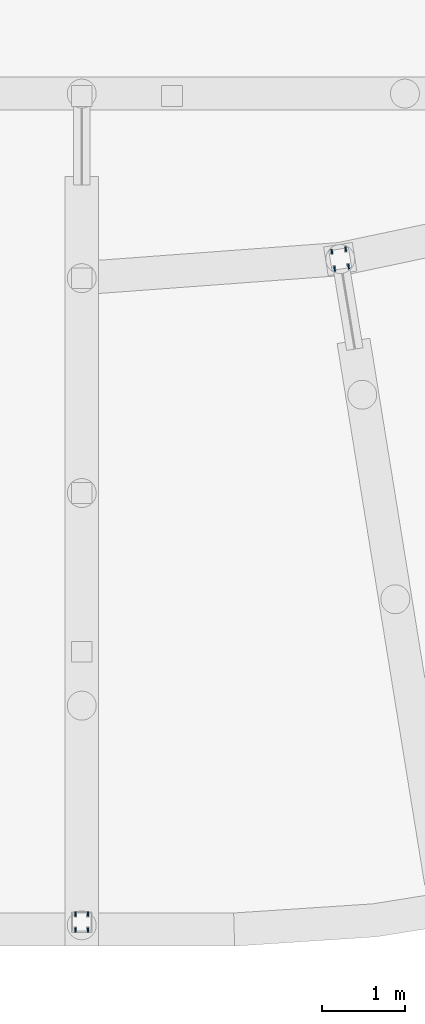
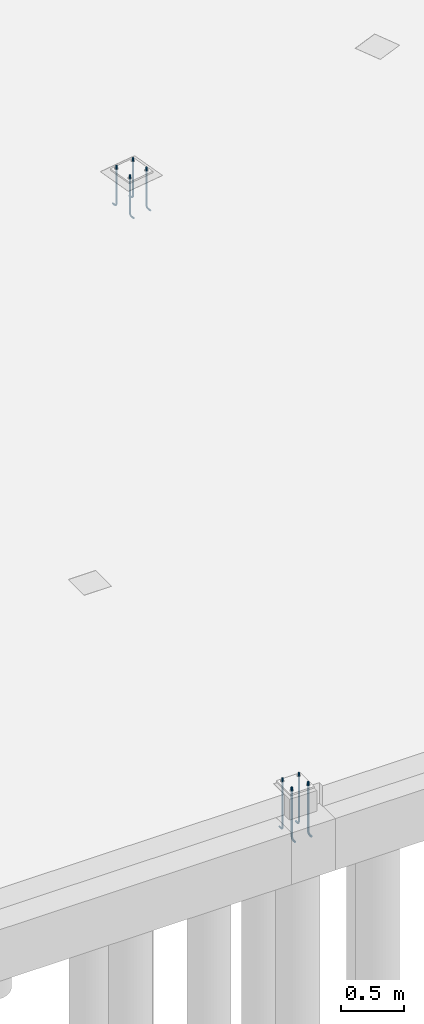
# One storey, part 19 of 22: 8 beams.
"""IFC2X3 building model written with IfcOpenShell, lengths in millimetres."""

from ifc_helpers import new_model, si_unit, frame, origin_with_axes, place, context, subcontext, project, spatial, faceted_brep, material, type_object, element, save


model = new_model("IFC2X3")

# Units and contexts
model_context = context("Model", 3, precision=1e-05, world=origin_with_axes())
body_context = subcontext(model_context, "Body", "Model", "MODEL_VIEW")
ifc_project = project(units=[si_unit("LENGTHUNIT", "METRE", prefix="MILLI"), si_unit("AREAUNIT", "SQUARE_METRE"), si_unit("VOLUMEUNIT", "CUBIC_METRE"), si_unit("MASSUNIT", "GRAM", prefix="KILO"), si_unit("TIMEUNIT", "SECOND"), si_unit("PLANEANGLEUNIT", "RADIAN"), si_unit("SOLIDANGLEUNIT", "STERADIAN"), si_unit("THERMODYNAMICTEMPERATUREUNIT", "DEGREE_CELSIUS"), si_unit("LUMINOUSINTENSITYUNIT", "LUMEN")], contexts=[model_context])

# Site, building, storey
site_placement = place(None, origin_with_axes())
site = spatial("IfcSite", under=ifc_project, at=site_placement, Name="Undefined", CompositionType="ELEMENT")
building_placement = place(site_placement, origin_with_axes())
building = spatial("IfcBuilding", under=site, at=building_placement, Name="Undefined", CompositionType="ELEMENT")
storey_placement = place(building_placement, origin_with_axes())
storey = spatial("IfcBuildingStorey", under=building, at=storey_placement, Name="Undefined", CompositionType="ELEMENT", Elevation=0.0)

# Beams
ifc_material = material(Name="STEEL/S235JR")
beam_type = type_object("IfcBeamType", Name="ANKER_M16", PredefinedType="NOTDEFINED")
beam_1_placement = place(storey_placement, frame((49287.1203901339, 199.621214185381, 0.0), z_axis=(0.0, 1.0, 0.0), x_axis=(0.0, 0.0, -1.0)))
element("IfcBeam", 1, at=beam_1_placement, inside=storey, type_object=beam_type, material=ifc_material, Name="ANKER", context=body_context, shape_type="Brep", body=[
    faceted_brep([(0.0, -8.00000000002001, 7.27595761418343e-12), (0.0, -5.65685424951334, -5.65685424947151), (477.0, -5.65685424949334, -5.65685424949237), (477.0, -8.0, 0.0), (0.0, -9.09494701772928e-12, -7.99999999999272), (477.0, 0.0, -8.0), (0.0, 5.65685424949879, -5.65685424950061), (477.0, 5.65685424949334, -5.65685424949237), (0.0, 8.00000000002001, -3.63797880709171e-11), (477.0, 8.0, 0.0), (0.0, 5.65685424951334, 5.65685424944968), (477.0, 5.65685424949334, 5.65685424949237), (0.0, 5.45696821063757e-12, 7.99999999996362), (477.0, 0.0, 8.0), (0.0, -5.65685424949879, 5.65685424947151), (477.0, -5.65685424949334, 5.65685424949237), (488.863186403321, 0.0, 5.64026550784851), (487.966503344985, 5.65685424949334, 3.47548110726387), (485.801718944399, 8.0, -1.75077075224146), (483.636934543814, 5.65685424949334, -6.9770226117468), (482.740251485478, 0.0, -9.14180701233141), (483.636934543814, -5.65685424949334, -6.9770226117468), (485.801718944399, -8.0, -1.75077075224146), (487.966503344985, -5.65685424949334, 3.47548110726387), (497.263455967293, -5.65685424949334, -2.73654403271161), (498.920310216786, 0.0, -1.07968978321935), (493.263455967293, -8.0, -6.73654403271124), (489.263455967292, -5.65685424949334, -10.7365440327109), (487.606601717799, 0.0, -12.3933982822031), (489.263455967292, 5.65685424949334, -10.7365440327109), (493.263455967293, 8.0, -6.73654403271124), (497.263455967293, 5.65685424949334, -2.73654403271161), (503.475481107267, -5.65685424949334, -12.0334966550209), (505.640265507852, 0.0, -11.1368135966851), (498.249229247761, -8.0, -14.1982810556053), (493.022977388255, -5.65685424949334, -16.3630654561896), (490.85819298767, 0.0, -17.2597485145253), (493.022977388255, 5.65685424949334, -16.3630654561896), (498.249229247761, 8.0, -14.1982810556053), (503.475481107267, 5.65685424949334, -12.0334966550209), (505.656854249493, -5.65685424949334, -22.9999999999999), (508.000000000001, 0.0, -22.9999999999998), (500.0, -8.0, -23.0), (494.343145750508, -5.65685424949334, -23.0000000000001), (492.000000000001, 0.0, -23.0000000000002), (494.343145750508, 5.65685424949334, -23.0000000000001), (500.000000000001, 8.0, -23.0), (505.656854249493, 5.65685424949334, -22.9999999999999), (494.343145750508, -5.65685424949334, -50.0), (500.0, -8.0, -50.0), (492.0, 0.0, -50.0), (494.343145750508, 5.65685424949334, -50.0), (500.0, 8.0, -50.0), (505.656854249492, 5.65685424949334, -50.0), (508.0, 0.0, -50.0), (505.656854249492, -5.65685424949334, -50.0)], [[[0, 1, 2, 3]], [[1, 4, 5, 2]], [[4, 6, 7, 5]], [[6, 8, 9, 7]], [[8, 10, 11, 9]], [[10, 12, 13, 11]], [[12, 14, 15, 13]], [[14, 0, 3, 15]], [[14, 12, 10, 8, 6, 4, 1, 0]], [[11, 13, 16, 17]], [[9, 11, 17, 18]], [[7, 9, 18, 19]], [[5, 7, 19, 20]], [[2, 5, 20, 21]], [[3, 2, 21, 22]], [[15, 3, 22, 23]], [[13, 15, 23, 16]], [[23, 24, 25, 16]], [[22, 26, 24, 23]], [[21, 27, 26, 22]], [[20, 28, 27, 21]], [[19, 29, 28, 20]], [[18, 30, 29, 19]], [[17, 31, 30, 18]], [[16, 25, 31, 17]], [[24, 32, 33, 25]], [[26, 34, 32, 24]], [[27, 35, 34, 26]], [[28, 36, 35, 27]], [[29, 37, 36, 28]], [[30, 38, 37, 29]], [[31, 39, 38, 30]], [[25, 33, 39, 31]], [[32, 40, 41, 33]], [[34, 42, 40, 32]], [[35, 43, 42, 34]], [[36, 44, 43, 35]], [[37, 45, 44, 36]], [[38, 46, 45, 37]], [[39, 47, 46, 38]], [[33, 41, 47, 39]], [[42, 43, 48, 49]], [[43, 44, 50, 48]], [[44, 45, 51, 50]], [[45, 46, 52, 51]], [[46, 47, 53, 52]], [[47, 41, 54, 53]], [[41, 40, 55, 54]], [[40, 42, 49, 55]], [[50, 51, 52, 53, 54, 55, 49, 48]]]),
])
beam_2_placement = place(storey_placement, frame((49437.1203901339, 199.621214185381, 0.0), z_axis=(0.0, 1.0, 0.0), x_axis=(0.0, 0.0, -1.0)))
element("IfcBeam", 2, at=beam_2_placement, inside=storey, type_object=beam_type, material=ifc_material, Name="ANKER", context=body_context, shape_type="Brep", body=[
    faceted_brep([(0.0, -8.00000000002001, 7.27595761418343e-12), (0.0, -5.65685424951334, -5.65685424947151), (477.0, -5.65685424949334, -5.65685424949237), (477.0, -8.0, 0.0), (0.0, -9.09494701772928e-12, -7.99999999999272), (477.0, 0.0, -8.0), (0.0, 5.65685424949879, -5.65685424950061), (477.0, 5.65685424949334, -5.65685424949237), (0.0, 8.00000000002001, -3.63797880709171e-11), (477.0, 8.0, 0.0), (0.0, 5.65685424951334, 5.65685424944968), (477.0, 5.65685424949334, 5.65685424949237), (0.0, 5.45696821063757e-12, 7.99999999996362), (477.0, 0.0, 8.0), (0.0, -5.65685424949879, 5.65685424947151), (477.0, -5.65685424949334, 5.65685424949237), (488.863186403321, 0.0, 5.64026550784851), (487.966503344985, 5.65685424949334, 3.47548110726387), (485.801718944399, 8.0, -1.75077075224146), (483.636934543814, 5.65685424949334, -6.9770226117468), (482.740251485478, 0.0, -9.14180701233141), (483.636934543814, -5.65685424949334, -6.9770226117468), (485.801718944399, -8.0, -1.75077075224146), (487.966503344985, -5.65685424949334, 3.47548110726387), (497.263455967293, -5.65685424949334, -2.73654403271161), (498.920310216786, 0.0, -1.07968978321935), (493.263455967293, -8.0, -6.73654403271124), (489.263455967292, -5.65685424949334, -10.7365440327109), (487.606601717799, 0.0, -12.3933982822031), (489.263455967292, 5.65685424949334, -10.7365440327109), (493.263455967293, 8.0, -6.73654403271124), (497.263455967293, 5.65685424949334, -2.73654403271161), (503.475481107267, -5.65685424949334, -12.0334966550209), (505.640265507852, 0.0, -11.1368135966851), (498.249229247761, -8.0, -14.1982810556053), (493.022977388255, -5.65685424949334, -16.3630654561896), (490.85819298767, 0.0, -17.2597485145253), (493.022977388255, 5.65685424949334, -16.3630654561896), (498.249229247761, 8.0, -14.1982810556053), (503.475481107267, 5.65685424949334, -12.0334966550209), (505.656854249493, -5.65685424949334, -22.9999999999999), (508.000000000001, 0.0, -22.9999999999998), (500.0, -8.0, -23.0), (494.343145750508, -5.65685424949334, -23.0000000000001), (492.000000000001, 0.0, -23.0000000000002), (494.343145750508, 5.65685424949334, -23.0000000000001), (500.000000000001, 8.0, -23.0), (505.656854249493, 5.65685424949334, -22.9999999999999), (494.343145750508, -5.65685424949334, -50.0), (500.0, -8.0, -50.0), (492.0, 0.0, -50.0), (494.343145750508, 5.65685424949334, -50.0), (500.0, 8.0, -50.0), (505.656854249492, 5.65685424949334, -50.0), (508.0, 0.0, -50.0), (505.656854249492, -5.65685424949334, -50.0)], [[[0, 1, 2, 3]], [[1, 4, 5, 2]], [[4, 6, 7, 5]], [[6, 8, 9, 7]], [[8, 10, 11, 9]], [[10, 12, 13, 11]], [[12, 14, 15, 13]], [[14, 0, 3, 15]], [[14, 12, 10, 8, 6, 4, 1, 0]], [[11, 13, 16, 17]], [[9, 11, 17, 18]], [[7, 9, 18, 19]], [[5, 7, 19, 20]], [[2, 5, 20, 21]], [[3, 2, 21, 22]], [[15, 3, 22, 23]], [[13, 15, 23, 16]], [[23, 24, 25, 16]], [[22, 26, 24, 23]], [[21, 27, 26, 22]], [[20, 28, 27, 21]], [[19, 29, 28, 20]], [[18, 30, 29, 19]], [[17, 31, 30, 18]], [[16, 25, 31, 17]], [[24, 32, 33, 25]], [[26, 34, 32, 24]], [[27, 35, 34, 26]], [[28, 36, 35, 27]], [[29, 37, 36, 28]], [[30, 38, 37, 29]], [[31, 39, 38, 30]], [[25, 33, 39, 31]], [[32, 40, 41, 33]], [[34, 42, 40, 32]], [[35, 43, 42, 34]], [[36, 44, 43, 35]], [[37, 45, 44, 36]], [[38, 46, 45, 37]], [[39, 47, 46, 38]], [[33, 41, 47, 39]], [[42, 43, 48, 49]], [[43, 44, 50, 48]], [[44, 45, 51, 50]], [[45, 46, 52, 51]], [[46, 47, 53, 52]], [[47, 41, 54, 53]], [[41, 40, 55, 54]], [[40, 42, 49, 55]], [[50, 51, 52, 53, 54, 55, 49, 48]]]),
])
beam_3_placement = place(storey_placement, frame((49287.1203901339, 349.621214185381, 0.0), z_axis=(0.0, 1.0, 0.0), x_axis=(0.0, 0.0, -1.0)))
element("IfcBeam", 3, at=beam_3_placement, inside=storey, type_object=beam_type, material=ifc_material, Name="ANKER", context=body_context, shape_type="Brep", body=[
    faceted_brep([(0.0, -8.00000000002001, 7.27595761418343e-12), (0.0, -5.65685424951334, -5.65685424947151), (477.0, -5.65685424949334, -5.65685424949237), (477.0, -8.0, 0.0), (0.0, -9.09494701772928e-12, -7.99999999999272), (477.0, 0.0, -8.0), (0.0, 5.65685424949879, -5.65685424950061), (477.0, 5.65685424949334, -5.65685424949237), (0.0, 8.00000000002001, -3.63797880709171e-11), (477.0, 8.0, 0.0), (0.0, 5.65685424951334, 5.65685424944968), (477.0, 5.65685424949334, 5.65685424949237), (0.0, 5.45696821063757e-12, 7.99999999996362), (477.0, 0.0, 8.0), (0.0, -5.65685424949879, 5.65685424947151), (477.0, -5.65685424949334, 5.65685424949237), (488.863186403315, 0.0, -5.64026550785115), (487.966503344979, -5.65685424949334, -3.47548110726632), (485.801718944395, -8.0, 1.75077075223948), (483.636934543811, -5.65685424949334, 6.97702261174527), (482.740251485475, 0.0, 9.14180701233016), (483.636934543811, 5.65685424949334, 6.97702261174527), (485.801718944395, 8.0, 1.75077075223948), (487.966503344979, 5.65685424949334, -3.47548110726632), (497.263455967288, 5.65685424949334, 2.73654403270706), (498.920310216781, 0.0, 1.07968978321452), (493.263455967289, 8.0, 6.73654403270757), (489.263455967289, 5.65685424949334, 10.7365440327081), (487.606601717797, 0.0, 12.3933982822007), (489.263455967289, -5.65685424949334, 10.7365440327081), (493.263455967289, -8.0, 6.73654403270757), (497.263455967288, -5.65685424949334, 2.73654403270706), (503.475481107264, 5.65685424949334, 12.033496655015), (505.640265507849, 0.0, 11.1368135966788), (498.249229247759, 8.0, 14.1982810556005), (493.022977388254, 5.65685424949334, 16.363065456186), (490.858192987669, 0.0, 17.2597485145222), (493.022977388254, -5.65685424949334, 16.363065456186), (498.249229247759, -8.0, 14.1982810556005), (503.475481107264, -5.65685424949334, 12.033496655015), (505.656854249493, 5.65685424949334, 22.9999999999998), (508.000000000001, 0.0, 22.9999999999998), (500.000000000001, 8.0, 23.0), (494.343145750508, 5.65685424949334, 23.0000000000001), (492.000000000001, 0.0, 23.0000000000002), (494.343145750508, -5.65685424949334, 23.0000000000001), (500.0, -8.0, 23.0), (505.656854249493, -5.65685424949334, 22.9999999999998), (505.656854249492, -5.65685424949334, 50.0), (500.0, -8.0, 50.0), (508.0, 0.0, 50.0), (505.656854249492, 5.65685424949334, 50.0), (500.0, 8.0, 50.0), (494.343145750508, 5.65685424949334, 50.0), (492.0, 0.0, 50.0), (494.343145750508, -5.65685424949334, 50.0)], [[[0, 1, 2, 3]], [[1, 4, 5, 2]], [[4, 6, 7, 5]], [[6, 8, 9, 7]], [[8, 10, 11, 9]], [[10, 12, 13, 11]], [[12, 14, 15, 13]], [[14, 0, 3, 15]], [[14, 12, 10, 8, 6, 4, 1, 0]], [[2, 5, 16, 17]], [[3, 2, 17, 18]], [[15, 3, 18, 19]], [[13, 15, 19, 20]], [[11, 13, 20, 21]], [[9, 11, 21, 22]], [[7, 9, 22, 23]], [[5, 7, 23, 16]], [[23, 24, 25, 16]], [[22, 26, 24, 23]], [[21, 27, 26, 22]], [[20, 28, 27, 21]], [[19, 29, 28, 20]], [[18, 30, 29, 19]], [[17, 31, 30, 18]], [[16, 25, 31, 17]], [[24, 32, 33, 25]], [[26, 34, 32, 24]], [[27, 35, 34, 26]], [[28, 36, 35, 27]], [[29, 37, 36, 28]], [[30, 38, 37, 29]], [[31, 39, 38, 30]], [[25, 33, 39, 31]], [[32, 40, 41, 33]], [[34, 42, 40, 32]], [[35, 43, 42, 34]], [[36, 44, 43, 35]], [[37, 45, 44, 36]], [[38, 46, 45, 37]], [[39, 47, 46, 38]], [[33, 41, 47, 39]], [[46, 47, 48, 49]], [[47, 41, 50, 48]], [[41, 40, 51, 50]], [[40, 42, 52, 51]], [[42, 43, 53, 52]], [[43, 44, 54, 53]], [[44, 45, 55, 54]], [[45, 46, 49, 55]], [[50, 51, 52, 53, 54, 55, 49, 48]]]),
])
beam_4_placement = place(storey_placement, frame((49437.1203901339, 349.621214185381, 0.0), z_axis=(0.0, -1.0, 0.0), x_axis=(0.0, 0.0, -1.0)))
element("IfcBeam", 4, at=beam_4_placement, inside=storey, type_object=beam_type, material=ifc_material, Name="ANKER", context=body_context, shape_type="Brep", body=[
    faceted_brep([(0.0, -8.00000000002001, 7.27595761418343e-12), (0.0, -5.65685424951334, -5.65685424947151), (477.0, -5.65685424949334, -5.65685424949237), (477.0, -8.0, 0.0), (0.0, -9.09494701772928e-12, -7.99999999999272), (477.0, 0.0, -8.0), (0.0, 5.65685424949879, -5.65685424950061), (477.0, 5.65685424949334, -5.65685424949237), (0.0, 8.00000000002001, -3.63797880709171e-11), (477.0, 8.0, 0.0), (0.0, 5.65685424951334, 5.65685424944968), (477.0, 5.65685424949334, 5.65685424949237), (0.0, 5.45696821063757e-12, 7.99999999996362), (477.0, 0.0, 8.0), (0.0, -5.65685424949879, 5.65685424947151), (477.0, -5.65685424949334, 5.65685424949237), (488.863186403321, 0.0, 5.64026550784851), (487.966503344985, 5.65685424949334, 3.47548110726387), (485.801718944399, 8.0, -1.75077075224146), (483.636934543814, 5.65685424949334, -6.9770226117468), (482.740251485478, 0.0, -9.14180701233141), (483.636934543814, -5.65685424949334, -6.9770226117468), (485.801718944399, -8.0, -1.75077075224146), (487.966503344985, -5.65685424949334, 3.47548110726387), (497.263455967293, -5.65685424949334, -2.73654403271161), (498.920310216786, 0.0, -1.07968978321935), (493.263455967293, -8.0, -6.73654403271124), (489.263455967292, -5.65685424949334, -10.7365440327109), (487.606601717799, 0.0, -12.3933982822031), (489.263455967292, 5.65685424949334, -10.7365440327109), (493.263455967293, 8.0, -6.73654403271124), (497.263455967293, 5.65685424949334, -2.73654403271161), (503.475481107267, -5.65685424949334, -12.0334966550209), (505.640265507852, 0.0, -11.1368135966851), (498.249229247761, -8.0, -14.1982810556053), (493.022977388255, -5.65685424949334, -16.3630654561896), (490.85819298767, 0.0, -17.2597485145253), (493.022977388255, 5.65685424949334, -16.3630654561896), (498.249229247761, 8.0, -14.1982810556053), (503.475481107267, 5.65685424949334, -12.0334966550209), (505.656854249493, -5.65685424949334, -22.9999999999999), (508.000000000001, 0.0, -22.9999999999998), (500.0, -8.0, -23.0), (494.343145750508, -5.65685424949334, -23.0000000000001), (492.000000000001, 0.0, -23.0000000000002), (494.343145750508, 5.65685424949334, -23.0000000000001), (500.000000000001, 8.0, -23.0), (505.656854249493, 5.65685424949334, -22.9999999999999), (494.343145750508, -5.65685424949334, -50.0), (500.0, -8.0, -50.0), (492.0, 0.0, -50.0), (494.343145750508, 5.65685424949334, -50.0), (500.0, 8.0, -50.0), (505.656854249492, 5.65685424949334, -50.0), (508.0, 0.0, -50.0), (505.656854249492, -5.65685424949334, -50.0)], [[[0, 1, 2, 3]], [[1, 4, 5, 2]], [[4, 6, 7, 5]], [[6, 8, 9, 7]], [[8, 10, 11, 9]], [[10, 12, 13, 11]], [[12, 14, 15, 13]], [[14, 0, 3, 15]], [[14, 12, 10, 8, 6, 4, 1, 0]], [[11, 13, 16, 17]], [[9, 11, 17, 18]], [[7, 9, 18, 19]], [[5, 7, 19, 20]], [[2, 5, 20, 21]], [[3, 2, 21, 22]], [[15, 3, 22, 23]], [[13, 15, 23, 16]], [[23, 24, 25, 16]], [[22, 26, 24, 23]], [[21, 27, 26, 22]], [[20, 28, 27, 21]], [[19, 29, 28, 20]], [[18, 30, 29, 19]], [[17, 31, 30, 18]], [[16, 25, 31, 17]], [[24, 32, 33, 25]], [[26, 34, 32, 24]], [[27, 35, 34, 26]], [[28, 36, 35, 27]], [[29, 37, 36, 28]], [[30, 38, 37, 29]], [[31, 39, 38, 30]], [[25, 33, 39, 31]], [[32, 40, 41, 33]], [[34, 42, 40, 32]], [[35, 43, 42, 34]], [[36, 44, 43, 35]], [[37, 45, 44, 36]], [[38, 46, 45, 37]], [[39, 47, 46, 38]], [[33, 41, 47, 39]], [[42, 43, 48, 49]], [[43, 44, 50, 48]], [[44, 45, 51, 50]], [[45, 46, 52, 51]], [[46, 47, 53, 52]], [[47, 41, 54, 53]], [[41, 40, 55, 54]], [[40, 42, 49, 55]], [[50, 51, 52, 53, 54, 55, 49, 48]]]),
])
beam_5_placement = place(storey_placement, frame((52410.4952565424, 8179.79062919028, 0.0), z_axis=(-0.158972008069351, 0.987283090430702, 0.0), x_axis=(0.0, 0.0, -1.0)))
element("IfcBeam", 5, at=beam_5_placement, inside=storey, type_object=beam_type, material=ifc_material, Name="ANKER", context=body_context, shape_type="Brep", body=[
    faceted_brep([(0.0, -8.00000000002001, 7.27595761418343e-12), (0.0, -5.65685424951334, -5.65685424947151), (369.0, -5.65685424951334, -5.65685424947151), (369.0, -8.00000000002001, 7.27595761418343e-12), (0.0, -9.09494701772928e-12, -7.99999999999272), (369.0, -9.09494701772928e-12, -7.99999999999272), (0.0, 5.65685424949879, -5.65685424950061), (369.0, 5.65685424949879, -5.65685424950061), (0.0, 8.00000000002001, -3.63797880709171e-11), (369.0, 8.00000000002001, -3.63797880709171e-11), (0.0, 5.65685424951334, 5.65685424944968), (369.0, 5.65685424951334, 5.65685424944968), (0.0, 5.45696821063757e-12, 7.99999999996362), (369.0, 5.45696821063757e-12, 7.99999999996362), (0.0, -5.65685424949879, 5.65685424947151), (369.0, -5.65685424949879, 5.65685424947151), (380.863186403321, 9.09494701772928e-12, 5.64026550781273), (379.966503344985, 5.65685424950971, 3.4754811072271), (377.8017189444, 8.00000000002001, -1.75077075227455), (375.636934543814, 5.65685424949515, -6.97702261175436), (374.740251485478, -9.09494701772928e-12, -9.14180701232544), (375.636934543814, -5.65685424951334, -6.97702261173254), (377.8017189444, -8.00000000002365, -1.75077075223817), (379.966503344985, -5.65685424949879, 3.4754811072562), (389.263455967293, -5.65685424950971, -2.73654403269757), (390.920310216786, -1.81898940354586e-12, -1.07968978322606), (385.263455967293, -8.00000000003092, -6.73654403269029), (381.263455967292, -5.65685424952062, -10.736544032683), (379.6066017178, -9.09494701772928e-12, -12.3933982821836), (381.263455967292, 5.65685424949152, -10.7365440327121), (385.263455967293, 8.00000000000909, -6.73654403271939), (389.263455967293, 5.65685424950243, -2.73654403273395), (395.475481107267, -5.65685424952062, -12.0334966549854), (397.640265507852, -1.2732925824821e-11, -11.1368135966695), (390.249229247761, -8.00000000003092, -14.1982810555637), (385.022977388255, -5.65685424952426, -16.3630654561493), (382.85819298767, -1.63709046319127e-11, -17.2597485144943), (385.022977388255, 5.65685424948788, -16.3630654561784), (390.249229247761, 8.00000000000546, -14.1982810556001), (395.475481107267, 5.65685424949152, -12.0334966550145), (397.656854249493, -5.65685424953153, -22.9999999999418), (400.000000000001, -2.36468622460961e-11, -22.9999999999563), (392.0, -8.00000000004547, -22.9999999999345), (386.343145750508, -5.65685424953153, -22.9999999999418), (384.000000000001, -2.36468622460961e-11, -22.9999999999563), (386.343145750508, 5.65685424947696, -22.9999999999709), (392.000000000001, 7.99999999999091, -22.9999999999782), (397.656854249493, 5.65685424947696, -22.9999999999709), (386.343145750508, -5.65685424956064, -49.9999999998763), (392.0, -8.00000000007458, -49.999999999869), (384.0, -5.63886715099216e-11, -49.9999999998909), (386.343145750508, 5.65685424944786, -49.9999999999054), (392.0, 7.9999999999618, -49.9999999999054), (397.656854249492, 5.65685424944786, -49.9999999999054), (400.0, -5.63886715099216e-11, -49.9999999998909), (397.656854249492, -5.65685424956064, -49.9999999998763)], [[[0, 1, 2, 3]], [[1, 4, 5, 2]], [[4, 6, 7, 5]], [[6, 8, 9, 7]], [[8, 10, 11, 9]], [[10, 12, 13, 11]], [[12, 14, 15, 13]], [[14, 0, 3, 15]], [[14, 12, 10, 8, 6, 4, 1, 0]], [[11, 13, 16, 17]], [[9, 11, 17, 18]], [[7, 9, 18, 19]], [[5, 7, 19, 20]], [[2, 5, 20, 21]], [[3, 2, 21, 22]], [[15, 3, 22, 23]], [[13, 15, 23, 16]], [[23, 24, 25, 16]], [[22, 26, 24, 23]], [[21, 27, 26, 22]], [[20, 28, 27, 21]], [[19, 29, 28, 20]], [[18, 30, 29, 19]], [[17, 31, 30, 18]], [[16, 25, 31, 17]], [[24, 32, 33, 25]], [[26, 34, 32, 24]], [[27, 35, 34, 26]], [[28, 36, 35, 27]], [[29, 37, 36, 28]], [[30, 38, 37, 29]], [[31, 39, 38, 30]], [[25, 33, 39, 31]], [[32, 40, 41, 33]], [[34, 42, 40, 32]], [[35, 43, 42, 34]], [[36, 44, 43, 35]], [[37, 45, 44, 36]], [[38, 46, 45, 37]], [[39, 47, 46, 38]], [[33, 41, 47, 39]], [[42, 43, 48, 49]], [[43, 44, 50, 48]], [[44, 45, 51, 50]], [[45, 46, 52, 51]], [[46, 47, 53, 52]], [[47, 41, 54, 53]], [[41, 40, 55, 54]], [[40, 42, 49, 55]], [[50, 51, 52, 53, 54, 55, 49, 48]]]),
])
beam_6_placement = place(storey_placement, frame((52578.3333819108, 8206.81587056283, 0.0), z_axis=(-0.158972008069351, 0.987283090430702, 0.0), x_axis=(0.0, 0.0, -1.0)))
element("IfcBeam", 6, at=beam_6_placement, inside=storey, type_object=beam_type, material=ifc_material, Name="ANKER", context=body_context, shape_type="Brep", body=[
    faceted_brep([(0.0, -8.00000000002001, 7.27595761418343e-12), (0.0, -5.65685424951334, -5.65685424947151), (369.0, -5.65685424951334, -5.65685424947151), (369.0, -8.00000000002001, 7.27595761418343e-12), (0.0, -9.09494701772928e-12, -7.99999999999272), (369.0, -9.09494701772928e-12, -7.99999999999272), (0.0, 5.65685424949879, -5.65685424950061), (369.0, 5.65685424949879, -5.65685424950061), (0.0, 8.00000000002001, -3.63797880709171e-11), (369.0, 8.00000000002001, -3.63797880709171e-11), (0.0, 5.65685424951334, 5.65685424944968), (369.0, 5.65685424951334, 5.65685424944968), (0.0, 5.45696821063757e-12, 7.99999999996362), (369.0, 5.45696821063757e-12, 7.99999999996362), (0.0, -5.65685424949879, 5.65685424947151), (369.0, -5.65685424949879, 5.65685424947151), (380.863186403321, 9.09494701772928e-12, 5.64026550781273), (379.966503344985, 5.65685424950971, 3.4754811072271), (377.8017189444, 8.00000000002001, -1.75077075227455), (375.636934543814, 5.65685424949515, -6.97702261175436), (374.740251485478, -9.09494701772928e-12, -9.14180701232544), (375.636934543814, -5.65685424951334, -6.97702261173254), (377.8017189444, -8.00000000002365, -1.75077075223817), (379.966503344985, -5.65685424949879, 3.4754811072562), (389.263455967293, -5.65685424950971, -2.73654403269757), (390.920310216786, -1.81898940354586e-12, -1.07968978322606), (385.263455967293, -8.00000000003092, -6.73654403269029), (381.263455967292, -5.65685424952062, -10.736544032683), (379.6066017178, -9.09494701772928e-12, -12.3933982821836), (381.263455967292, 5.65685424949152, -10.7365440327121), (385.263455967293, 8.00000000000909, -6.73654403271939), (389.263455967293, 5.65685424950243, -2.73654403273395), (395.475481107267, -5.65685424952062, -12.0334966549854), (397.640265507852, -1.2732925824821e-11, -11.1368135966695), (390.249229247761, -8.00000000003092, -14.1982810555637), (385.022977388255, -5.65685424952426, -16.3630654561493), (382.85819298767, -1.63709046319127e-11, -17.2597485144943), (385.022977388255, 5.65685424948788, -16.3630654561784), (390.249229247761, 8.00000000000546, -14.1982810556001), (395.475481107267, 5.65685424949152, -12.0334966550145), (397.656854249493, -5.65685424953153, -22.9999999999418), (400.000000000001, -2.36468622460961e-11, -22.9999999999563), (392.0, -8.00000000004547, -22.9999999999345), (386.343145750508, -5.65685424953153, -22.9999999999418), (384.000000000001, -2.36468622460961e-11, -22.9999999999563), (386.343145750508, 5.65685424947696, -22.9999999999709), (392.000000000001, 7.99999999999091, -22.9999999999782), (397.656854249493, 5.65685424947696, -22.9999999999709), (386.343145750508, -5.65685424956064, -49.9999999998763), (392.0, -8.00000000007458, -49.999999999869), (384.0, -5.63886715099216e-11, -49.9999999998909), (386.343145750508, 5.65685424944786, -49.9999999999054), (392.0, 7.9999999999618, -49.9999999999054), (397.656854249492, 5.65685424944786, -49.9999999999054), (400.0, -5.63886715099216e-11, -49.9999999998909), (397.656854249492, -5.65685424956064, -49.9999999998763)], [[[0, 1, 2, 3]], [[1, 4, 5, 2]], [[4, 6, 7, 5]], [[6, 8, 9, 7]], [[8, 10, 11, 9]], [[10, 12, 13, 11]], [[12, 14, 15, 13]], [[14, 0, 3, 15]], [[14, 12, 10, 8, 6, 4, 1, 0]], [[11, 13, 16, 17]], [[9, 11, 17, 18]], [[7, 9, 18, 19]], [[5, 7, 19, 20]], [[2, 5, 20, 21]], [[3, 2, 21, 22]], [[15, 3, 22, 23]], [[13, 15, 23, 16]], [[23, 24, 25, 16]], [[22, 26, 24, 23]], [[21, 27, 26, 22]], [[20, 28, 27, 21]], [[19, 29, 28, 20]], [[18, 30, 29, 19]], [[17, 31, 30, 18]], [[16, 25, 31, 17]], [[24, 32, 33, 25]], [[26, 34, 32, 24]], [[27, 35, 34, 26]], [[28, 36, 35, 27]], [[29, 37, 36, 28]], [[30, 38, 37, 29]], [[31, 39, 38, 30]], [[25, 33, 39, 31]], [[32, 40, 41, 33]], [[34, 42, 40, 32]], [[35, 43, 42, 34]], [[36, 44, 43, 35]], [[37, 45, 44, 36]], [[38, 46, 45, 37]], [[39, 47, 46, 38]], [[33, 41, 47, 39]], [[42, 43, 48, 49]], [[43, 44, 50, 48]], [[44, 45, 51, 50]], [[45, 46, 52, 51]], [[46, 47, 53, 52]], [[47, 41, 54, 53]], [[41, 40, 55, 54]], [[40, 42, 49, 55]], [[50, 51, 52, 53, 54, 55, 49, 48]]]),
])
beam_7_placement = place(storey_placement, frame((52383.4700151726, 8347.62875456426, 0.0), z_axis=(-0.158972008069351, 0.987283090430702, 0.0), x_axis=(0.0, 0.0, -1.0)))
element("IfcBeam", 7, at=beam_7_placement, inside=storey, type_object=beam_type, material=ifc_material, Name="ANKER", context=body_context, shape_type="Brep", body=[
    faceted_brep([(0.0, -8.00000000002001, 7.27595761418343e-12), (0.0, -5.65685424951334, -5.65685424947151), (369.0, -5.65685424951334, -5.65685424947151), (369.0, -8.00000000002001, 7.27595761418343e-12), (0.0, -9.09494701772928e-12, -7.99999999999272), (369.0, -9.09494701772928e-12, -7.99999999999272), (0.0, 5.65685424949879, -5.65685424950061), (369.0, 5.65685424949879, -5.65685424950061), (0.0, 8.00000000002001, -3.63797880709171e-11), (369.0, 8.00000000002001, -3.63797880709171e-11), (0.0, 5.65685424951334, 5.65685424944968), (369.0, 5.65685424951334, 5.65685424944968), (0.0, 5.45696821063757e-12, 7.99999999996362), (369.0, 5.45696821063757e-12, 7.99999999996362), (0.0, -5.65685424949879, 5.65685424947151), (369.0, -5.65685424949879, 5.65685424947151), (380.863186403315, -9.09494701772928e-12, -5.64026550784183), (379.966503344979, -5.65685424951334, -3.47548110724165), (377.801718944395, -8.00000000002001, 1.75077075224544), (375.636934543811, -5.65685424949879, 6.97702261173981), (374.740251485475, 1.2732925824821e-11, 9.14180701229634), (375.636934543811, 5.65685424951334, 6.97702261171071), (377.801718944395, 8.00000000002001, 1.75077075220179), (379.966503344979, 5.65685424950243, -3.47548110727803), (389.263455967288, 5.65685424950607, 2.73654403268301), (390.920310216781, -1.81898940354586e-12, 1.07968978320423), (385.263455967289, 8.00000000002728, 6.73654403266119), (381.263455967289, 5.65685424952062, 10.7365440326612), (379.606601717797, 1.2732925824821e-11, 12.3933982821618), (381.263455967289, -5.65685424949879, 10.736544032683), (385.263455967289, -8.00000000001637, 6.73654403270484), (389.263455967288, -5.65685424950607, 2.73654403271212), (395.475481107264, 5.65685424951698, 12.0334966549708), (397.640265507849, 1.2732925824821e-11, 11.1368135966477), (390.249229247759, 8.00000000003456, 14.1982810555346), (385.022977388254, 5.65685424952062, 16.3630654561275), (382.858192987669, 1.63709046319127e-11, 17.2597485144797), (385.022977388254, -5.65685424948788, 16.3630654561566), (390.249229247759, -8.00000000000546, 14.1982810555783), (395.475481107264, -5.65685424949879, 12.0334966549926), (397.656854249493, 5.65685424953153, 22.99999999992), (400.000000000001, 2.36468622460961e-11, 22.9999999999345), (392.000000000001, 8.00000000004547, 22.99999999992), (386.343145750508, 5.65685424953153, 22.99999999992), (384.000000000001, 2.36468622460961e-11, 22.9999999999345), (386.343145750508, -5.65685424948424, 22.9999999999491), (392.0, -7.99999999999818, 22.9999999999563), (397.656854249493, -5.65685424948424, 22.9999999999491), (397.656854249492, -5.6568542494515, 49.9999999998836), (392.0, -7.99999999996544, 49.9999999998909), (400.0, 5.27506927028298e-11, 49.999999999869), (397.656854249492, 5.65685424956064, 49.9999999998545), (392.0, 8.00000000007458, 49.9999999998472), (386.343145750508, 5.65685424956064, 49.9999999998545), (384.0, 5.27506927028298e-11, 49.999999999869), (386.343145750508, -5.6568542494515, 49.9999999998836)], [[[0, 1, 2, 3]], [[1, 4, 5, 2]], [[4, 6, 7, 5]], [[6, 8, 9, 7]], [[8, 10, 11, 9]], [[10, 12, 13, 11]], [[12, 14, 15, 13]], [[14, 0, 3, 15]], [[14, 12, 10, 8, 6, 4, 1, 0]], [[2, 5, 16, 17]], [[3, 2, 17, 18]], [[15, 3, 18, 19]], [[13, 15, 19, 20]], [[11, 13, 20, 21]], [[9, 11, 21, 22]], [[7, 9, 22, 23]], [[5, 7, 23, 16]], [[23, 24, 25, 16]], [[22, 26, 24, 23]], [[21, 27, 26, 22]], [[20, 28, 27, 21]], [[19, 29, 28, 20]], [[18, 30, 29, 19]], [[17, 31, 30, 18]], [[16, 25, 31, 17]], [[24, 32, 33, 25]], [[26, 34, 32, 24]], [[27, 35, 34, 26]], [[28, 36, 35, 27]], [[29, 37, 36, 28]], [[30, 38, 37, 29]], [[31, 39, 38, 30]], [[25, 33, 39, 31]], [[32, 40, 41, 33]], [[34, 42, 40, 32]], [[35, 43, 42, 34]], [[36, 44, 43, 35]], [[37, 45, 44, 36]], [[38, 46, 45, 37]], [[39, 47, 46, 38]], [[33, 41, 47, 39]], [[46, 47, 48, 49]], [[47, 41, 50, 48]], [[41, 40, 51, 50]], [[40, 42, 52, 51]], [[42, 43, 53, 52]], [[43, 44, 54, 53]], [[44, 45, 55, 54]], [[45, 46, 49, 55]], [[50, 51, 52, 53, 54, 55, 49, 48]]]),
])
beam_8_placement = place(storey_placement, frame((52551.3081405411, 8374.65399593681, 0.0), z_axis=(0.158972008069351, -0.987283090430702, 0.0), x_axis=(0.0, 0.0, -1.0)))
element("IfcBeam", 8, at=beam_8_placement, inside=storey, type_object=beam_type, material=ifc_material, Name="ANKER", context=body_context, shape_type="Brep", body=[
    faceted_brep([(0.0, -8.00000000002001, 7.27595761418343e-12), (0.0, -5.65685424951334, -5.65685424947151), (369.0, -5.65685424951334, -5.65685424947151), (369.0, -8.00000000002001, 7.27595761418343e-12), (0.0, -9.09494701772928e-12, -7.99999999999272), (369.0, -9.09494701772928e-12, -7.99999999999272), (0.0, 5.65685424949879, -5.65685424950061), (369.0, 5.65685424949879, -5.65685424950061), (0.0, 8.00000000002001, -3.63797880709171e-11), (369.0, 8.00000000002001, -3.63797880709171e-11), (0.0, 5.65685424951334, 5.65685424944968), (369.0, 5.65685424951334, 5.65685424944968), (0.0, 5.45696821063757e-12, 7.99999999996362), (369.0, 5.45696821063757e-12, 7.99999999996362), (0.0, -5.65685424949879, 5.65685424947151), (369.0, -5.65685424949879, 5.65685424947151), (380.863186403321, 9.09494701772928e-12, 5.64026550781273), (379.966503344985, 5.65685424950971, 3.4754811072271), (377.8017189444, 8.00000000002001, -1.75077075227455), (375.636934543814, 5.65685424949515, -6.97702261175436), (374.740251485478, -9.09494701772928e-12, -9.14180701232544), (375.636934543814, -5.65685424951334, -6.97702261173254), (377.8017189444, -8.00000000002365, -1.75077075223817), (379.966503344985, -5.65685424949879, 3.4754811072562), (389.263455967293, -5.65685424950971, -2.73654403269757), (390.920310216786, -1.81898940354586e-12, -1.07968978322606), (385.263455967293, -8.00000000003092, -6.73654403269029), (381.263455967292, -5.65685424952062, -10.736544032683), (379.6066017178, -9.09494701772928e-12, -12.3933982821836), (381.263455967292, 5.65685424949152, -10.7365440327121), (385.263455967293, 8.00000000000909, -6.73654403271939), (389.263455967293, 5.65685424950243, -2.73654403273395), (395.475481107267, -5.65685424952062, -12.0334966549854), (397.640265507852, -1.2732925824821e-11, -11.1368135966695), (390.249229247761, -8.00000000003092, -14.1982810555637), (385.022977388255, -5.65685424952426, -16.3630654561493), (382.85819298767, -1.63709046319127e-11, -17.2597485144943), (385.022977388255, 5.65685424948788, -16.3630654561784), (390.249229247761, 8.00000000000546, -14.1982810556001), (395.475481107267, 5.65685424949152, -12.0334966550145), (397.656854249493, -5.65685424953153, -22.9999999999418), (400.000000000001, -2.36468622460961e-11, -22.9999999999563), (392.0, -8.00000000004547, -22.9999999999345), (386.343145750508, -5.65685424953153, -22.9999999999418), (384.000000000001, -2.36468622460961e-11, -22.9999999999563), (386.343145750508, 5.65685424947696, -22.9999999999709), (392.000000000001, 7.99999999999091, -22.9999999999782), (397.656854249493, 5.65685424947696, -22.9999999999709), (386.343145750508, -5.65685424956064, -49.9999999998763), (392.0, -8.00000000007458, -49.999999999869), (384.0, -5.63886715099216e-11, -49.9999999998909), (386.343145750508, 5.65685424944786, -49.9999999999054), (392.0, 7.9999999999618, -49.9999999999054), (397.656854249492, 5.65685424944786, -49.9999999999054), (400.0, -5.63886715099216e-11, -49.9999999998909), (397.656854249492, -5.65685424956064, -49.9999999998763)], [[[0, 1, 2, 3]], [[1, 4, 5, 2]], [[4, 6, 7, 5]], [[6, 8, 9, 7]], [[8, 10, 11, 9]], [[10, 12, 13, 11]], [[12, 14, 15, 13]], [[14, 0, 3, 15]], [[14, 12, 10, 8, 6, 4, 1, 0]], [[11, 13, 16, 17]], [[9, 11, 17, 18]], [[7, 9, 18, 19]], [[5, 7, 19, 20]], [[2, 5, 20, 21]], [[3, 2, 21, 22]], [[15, 3, 22, 23]], [[13, 15, 23, 16]], [[23, 24, 25, 16]], [[22, 26, 24, 23]], [[21, 27, 26, 22]], [[20, 28, 27, 21]], [[19, 29, 28, 20]], [[18, 30, 29, 19]], [[17, 31, 30, 18]], [[16, 25, 31, 17]], [[24, 32, 33, 25]], [[26, 34, 32, 24]], [[27, 35, 34, 26]], [[28, 36, 35, 27]], [[29, 37, 36, 28]], [[30, 38, 37, 29]], [[31, 39, 38, 30]], [[25, 33, 39, 31]], [[32, 40, 41, 33]], [[34, 42, 40, 32]], [[35, 43, 42, 34]], [[36, 44, 43, 35]], [[37, 45, 44, 36]], [[38, 46, 45, 37]], [[39, 47, 46, 38]], [[33, 41, 47, 39]], [[42, 43, 48, 49]], [[43, 44, 50, 48]], [[44, 45, 51, 50]], [[45, 46, 52, 51]], [[46, 47, 53, 52]], [[47, 41, 54, 53]], [[41, 40, 55, 54]], [[40, 42, 49, 55]], [[50, 51, 52, 53, 54, 55, 49, 48]]]),
])

save(model, "model.ifc")
